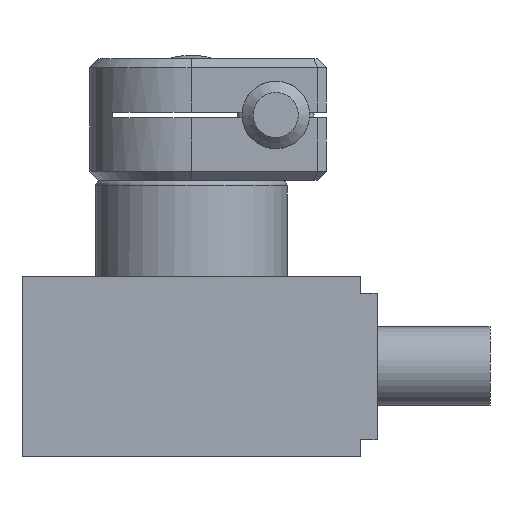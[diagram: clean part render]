
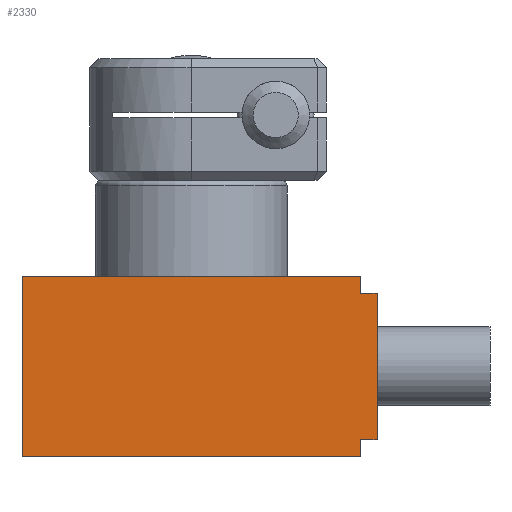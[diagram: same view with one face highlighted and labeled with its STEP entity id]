
A CAD part, front view. The second image highlights one B-rep face of the part: STEP entity #2330.
In plain terms, the highlighted planar face has unit normal (0, -1, 0) as drawn and (0, 0, -1) by its records, which use the part's own axes.
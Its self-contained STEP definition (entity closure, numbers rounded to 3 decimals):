
#152=LINE('',#3670,#366);
#156=LINE('',#3681,#370);
#164=LINE('',#3696,#378);
#196=LINE('',#3799,#410);
#212=LINE('',#3844,#426);
#228=LINE('',#3877,#442);
#231=LINE('',#3882,#445);
#232=LINE('',#3884,#446);
#366=VECTOR('',#3013,13.);
#370=VECTOR('',#3021,1.5);
#378=VECTOR('',#3029,1.5);
#410=VECTOR('',#3133,30.);
#426=VECTOR('',#3177,16.);
#442=VECTOR('',#3215,30.);
#445=VECTOR('',#3222,1.5);
#446=VECTOR('',#3225,1.5);
#537=PLANE('',#2559);
#749=FACE_OUTER_BOUND('',#919,.T.);
#919=EDGE_LOOP('',(#2121,#2122,#2123,#2124,#2125,#2126,#2127,#2128));
#1152=VERTEX_POINT('',#3667);
#1153=VERTEX_POINT('',#3669);
#1155=VERTEX_POINT('',#3674);
#1157=VERTEX_POINT('',#3678);
#1158=VERTEX_POINT('',#3680);
#1165=VERTEX_POINT('',#3694);
#1200=VERTEX_POINT('',#3797);
#1215=VERTEX_POINT('',#3842);
#1420=EDGE_CURVE('',#1153,#1152,#152,.T.);
#1425=EDGE_CURVE('',#1158,#1157,#156,.T.);
#1433=EDGE_CURVE('',#1155,#1165,#164,.T.);
#1482=EDGE_CURVE('',#1165,#1200,#196,.T.);
#1504=EDGE_CURVE('',#1215,#1200,#212,.T.);
#1521=EDGE_CURVE('',#1215,#1158,#228,.T.);
#1524=EDGE_CURVE('',#1157,#1153,#231,.T.);
#1525=EDGE_CURVE('',#1155,#1152,#232,.T.);
#2121=ORIENTED_EDGE('',*,*,#1420,.T.);
#2122=ORIENTED_EDGE('',*,*,#1525,.F.);
#2123=ORIENTED_EDGE('',*,*,#1433,.T.);
#2124=ORIENTED_EDGE('',*,*,#1482,.T.);
#2125=ORIENTED_EDGE('',*,*,#1504,.F.);
#2126=ORIENTED_EDGE('',*,*,#1521,.T.);
#2127=ORIENTED_EDGE('',*,*,#1425,.T.);
#2128=ORIENTED_EDGE('',*,*,#1524,.T.);
#2330=ADVANCED_FACE('',(#749),#537,.T.);
#2559=AXIS2_PLACEMENT_3D('',#3883,#3223,#3224);
#3013=DIRECTION('',(0.,-1.,0.));
#3021=DIRECTION('',(0.,-1.,0.));
#3029=DIRECTION('',(0.,-1.,0.));
#3133=DIRECTION('',(-1.,0.,0.));
#3177=DIRECTION('',(0.,-1.,0.));
#3215=DIRECTION('',(1.,0.,0.));
#3222=DIRECTION('',(1.,0.,0.));
#3223=DIRECTION('center_axis',(0.,0.,-1.));
#3224=DIRECTION('ref_axis',(-1.,0.,0.));
#3225=DIRECTION('',(1.,0.,0.));
#3667=CARTESIAN_POINT('',(16.5,-14.5,-40.));
#3669=CARTESIAN_POINT('',(16.5,-1.5,-40.));
#3670=CARTESIAN_POINT('',(16.5,-1.5,-40.));
#3674=CARTESIAN_POINT('',(15.,-14.5,-40.));
#3678=CARTESIAN_POINT('',(15.,-1.5,-40.));
#3680=CARTESIAN_POINT('',(15.,0.,-40.));
#3681=CARTESIAN_POINT('',(15.,0.,-40.));
#3694=CARTESIAN_POINT('',(15.,-16.,-40.));
#3696=CARTESIAN_POINT('',(15.,-14.5,-40.));
#3797=CARTESIAN_POINT('',(-15.,-16.,-40.));
#3799=CARTESIAN_POINT('',(15.,-16.,-40.));
#3842=CARTESIAN_POINT('',(-15.,0.,-40.));
#3844=CARTESIAN_POINT('',(-15.,0.,-40.));
#3877=CARTESIAN_POINT('',(-15.,0.,-40.));
#3882=CARTESIAN_POINT('',(15.,-1.5,-40.));
#3883=CARTESIAN_POINT('Origin',(15.,-1.5,-40.));
#3884=CARTESIAN_POINT('',(15.,-14.5,-40.));
